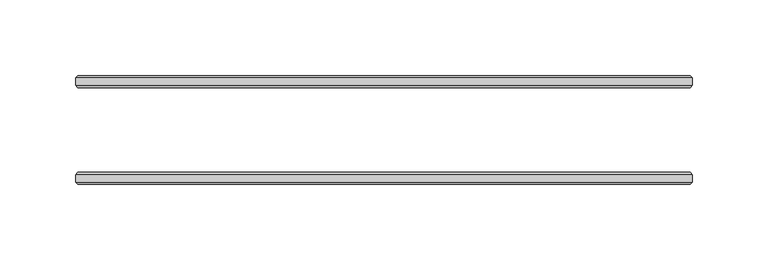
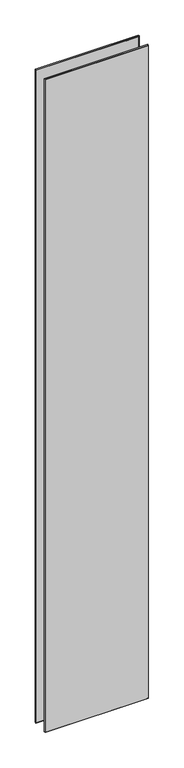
"""IFC4 building model written with IfcOpenShell, lengths in millimetres: plate geometry, 3-AMG-2-Панель двойной витраж 8, 10 : Смещение 32 Толщина 8mm."""

from ifc_helpers import new_model, si_unit, origin, place, context, project, spatial, faceted_brep, source, transform, mapped, element, save


def plate_a8088a49(model_context):
    return source(origin(), model_context, "Body", "Brep", [
        faceted_brep([(201.4311719, -34.4961653, 2722.8), (201.4311719, -29.5038347, 2722.8), (-206.4311719, -29.5038347, 2722.8), (-206.4311719, -34.4961653, 2722.8), (201.4311719, -29.5038347, -7.0), (201.4311719, -34.4961653, -7.0), (-206.4311719, -34.4961653, -7.0), (-206.4311719, -29.5038347, -7.0), (-204.9273372, -28.0, 2721.2961653), (199.9273372, -28.0, 2721.2961653), (199.9273372, -28.0, -5.5039422), (-204.9273372, -28.0, -5.5039422), (199.9273372, -36.0, 2721.2961653), (-204.9273372, -36.0, 2721.2961653), (-204.9273372, -36.0, -5.4961653), (199.9273372, -36.0, -5.4961653)], [[[0, 1, 2, 3]], [[4, 5, 6, 7]], [[8, 9, 10, 11]], [[3, 2, 7, 6]], [[12, 13, 14, 15]], [[1, 0, 5, 4]], [[1, 4, 10, 9]], [[5, 0, 12, 15]], [[0, 3, 13, 12]], [[2, 1, 9, 8]], [[7, 2, 8, 11]], [[3, 6, 14, 13]], [[6, 5, 15, 14]], [[4, 7, 11, 10]]]),
        faceted_brep([(201.4311719, 29.5038347, 2722.8), (201.4311719, 34.4961653, 2722.8), (-206.4311719, 34.4961653, 2722.8), (-206.4311719, 29.5038347, 2722.8), (201.4311719, 34.4961653, -7.0), (201.4311719, 29.5038347, -7.0), (-206.4311719, 29.5038347, -7.0), (-206.4311719, 34.4961653, -7.0), (-204.9273372, 36.0, 2721.2961653), (199.9273372, 36.0, 2721.2961653), (199.9273372, 36.0, -5.5039422), (-204.9273372, 36.0, -5.5039422), (199.9273372, 28.0, 2721.2961653), (-204.9273372, 28.0, 2721.2961653), (-204.9273372, 28.0, -5.4961653), (199.9273372, 28.0, -5.4961653)], [[[0, 1, 2, 3]], [[4, 5, 6, 7]], [[8, 9, 10, 11]], [[3, 2, 7, 6]], [[12, 13, 14, 15]], [[1, 0, 5, 4]], [[1, 4, 10, 9]], [[5, 0, 12, 15]], [[7, 2, 8, 11]], [[3, 6, 14, 13]], [[0, 3, 13, 12]], [[2, 1, 9, 8]], [[6, 5, 15, 14]], [[4, 7, 11, 10]]]),
    ])


if __name__ == "__main__":
    model = new_model("IFC4")
    model_context = context("Model", 3, world=origin())
    ifc_project = project(units=[si_unit("LENGTHUNIT", "METRE", prefix="MILLI")], contexts=[model_context])
    site = spatial("IfcSite", under=ifc_project)
    building = spatial("IfcBuilding", under=site)
    placement = place(None, origin())
    plate_shape = plate_a8088a49(model_context)
    element("IfcPlate", 1, ObjectType="3-AMG-2-Панель двойной витраж 8, 10 : Смещение 32 Толщина 8mm", at=placement, inside=building, context=model_context, shape_type="MappedRepresentation", body=[
        mapped(plate_shape, transform((0.0, 0.0, 0.0), x_axis=(1.0, 0.0, 0.0), y_axis=(0.0, 1.0, 0.0), z_axis=(0.0, 0.0, 1.0))),
    ])
    save(model, "model.ifc")
